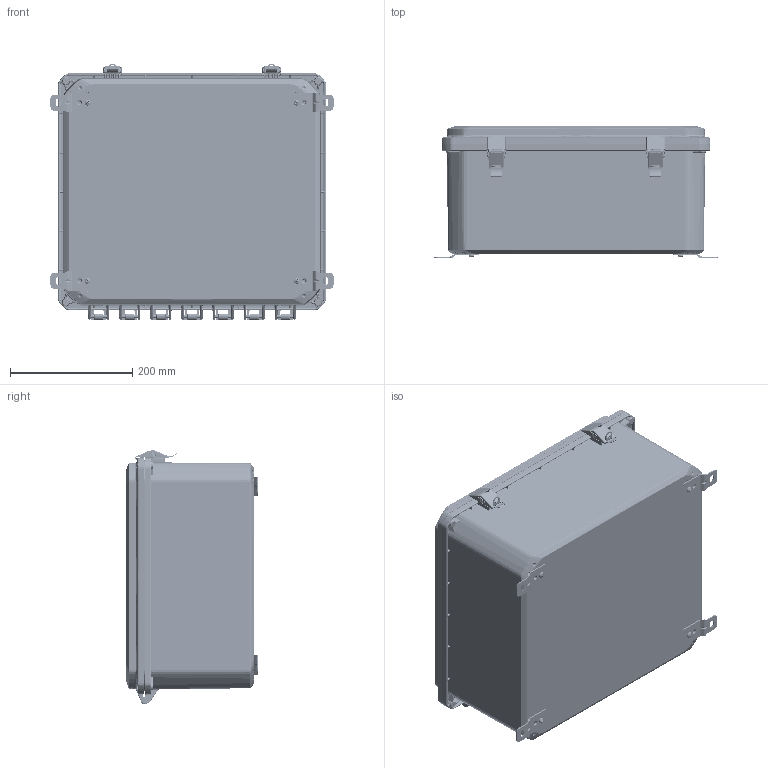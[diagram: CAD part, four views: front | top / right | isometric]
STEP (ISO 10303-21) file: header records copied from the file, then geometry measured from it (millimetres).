
FILE_DESCRIPTION (( 'STEP AP214' ), '1' );
FILE_NAME ('ZH-161407-40.STEP', '2024-06-17T12:08:41', ( '' ), ( '' ), 'SwSTEP 2.0', 'SolidWorks 2024', '' );
FILE_SCHEMA (( 'AUTOMOTIVE_DESIGN' ));
Length unit declared in the file: inch
Products named in the file (17): ZH-95P_DEFAULT; ZH-01L1; Z_-16141C_ZH-16141C-01; ZH-01L3; ZH-161407-40; ZH-01L5; INSERTS-4; SCREWS-049_SCREWS-049; ZH-1614G; LABEL-104; ZH-01L2; ZH-01L; ZH-91F-01_ZH-91F-01; Z_-16141CG_ZH-16141CG-01; ZH-01L4; Z_-16147BI_ZH-16147BI-01; Z_-16147B_ZH-16147B-01
Assembly tree (37 placements, depth 3):
  ZH-161407-40
    Z_-16147BI_ZH-16147BI-01
      Z_-16147B_ZH-16147B-01
      INSERTS-4  x12
      LABEL-104
    Z_-16141CG_ZH-16141CG-01
      Z_-16141C_ZH-16141C-01
      ZH-1614G
    ZH-95P_DEFAULT  x4
    ZH-01L  x2
      ZH-01L1
      ZH-01L2
      ZH-01L3
      ZH-01L4
      ZH-01L5
    SCREWS-049_SCREWS-049  x4
    ZH-91F-01_ZH-91F-01  x4
Bounding box: 462.39 x 216.7 x 419.06 mm (x, y, z)
Volume: 3153962.8 mm3; surface area: 1486222.2 mm2
Topology: 42 solids, 42 shells, 8089 faces, 19677 edges, 11658 vertices
Faces by surface type: bspline 2180, plane 1968, cylinder 1851, torus 928, cone 920, sphere 242
Entity records: 297457 total; most frequent: CARTESIAN_POINT 170033, ORIENTED_EDGE 29064, DIRECTION 24018, EDGE_CURVE 14532, AXIS2_PLACEMENT_3D 9845, VERTEX_POINT 8523, EDGE_LOOP 6393, FACE_OUTER_BOUND 6182
